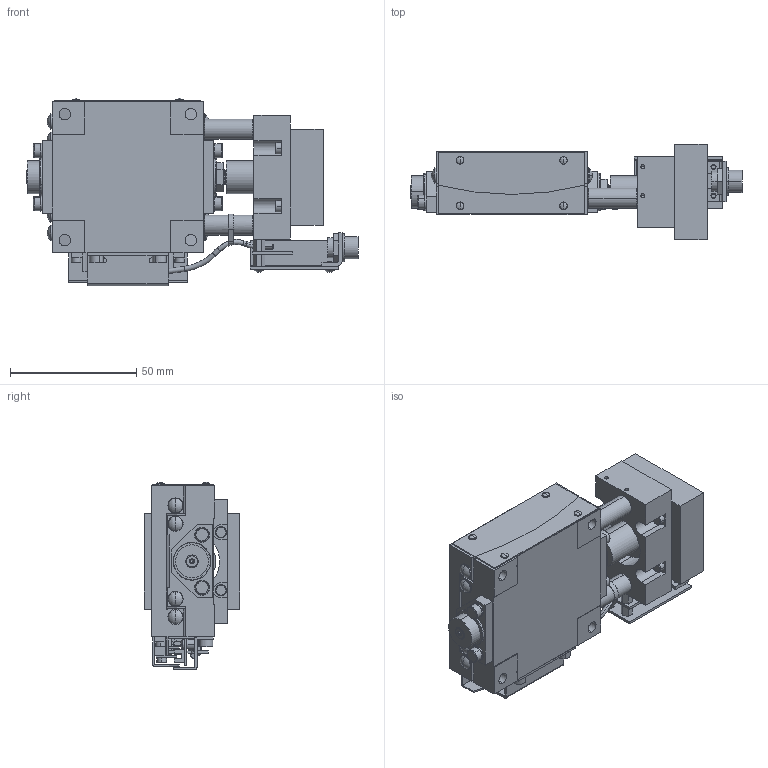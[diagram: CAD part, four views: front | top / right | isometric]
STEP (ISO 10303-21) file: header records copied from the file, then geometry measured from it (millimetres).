
FILE_DESCRIPTION (( 'STEP AP203' ), '1' );
FILE_NAME ('KGB06100MMV-LS38.STEP', '2024-03-25T09:01:25', ( '' ), ( '' ), 'SwSTEP 2.0', 'SolidWorks 2017', '' );
FILE_SCHEMA (( 'CONFIG_CONTROL_DESIGN' ));
Length unit declared in the file: millimetre
Products named in the file (6): KGB-60-S38_CADENAS; KGB-TOP-06100-L; KGB06100MMV-LS38; 60-M-6-L; KGB-BASE-06100-L; 60-S38_C
Assembly tree (5 placements, depth 2):
  KGB06100MMV-LS38
    KGB-BASE-06100-L
    KGB-TOP-06100-L
    KGB-60-S38_CADENAS
    60-M-6-L
    60-S38_C
Bounding box: 131.7 x 38 x 74.3 mm (x, y, z)
Volume: 128421.9 mm3; surface area: 50104.1 mm2
Topology: 5 solids, 35 shells, 953 faces, 2255 edges, 1447 vertices
Faces by surface type: plane 394, cylinder 383, cone 88, torus 44, sphere 36, bspline 8
Entity records: 28865 total; most frequent: CARTESIAN_POINT 5425, DIRECTION 5133, ORIENTED_EDGE 4438, EDGE_CURVE 2219, AXIS2_PLACEMENT_3D 1995, VERTEX_POINT 1447, LINE 1143, VECTOR 1143
